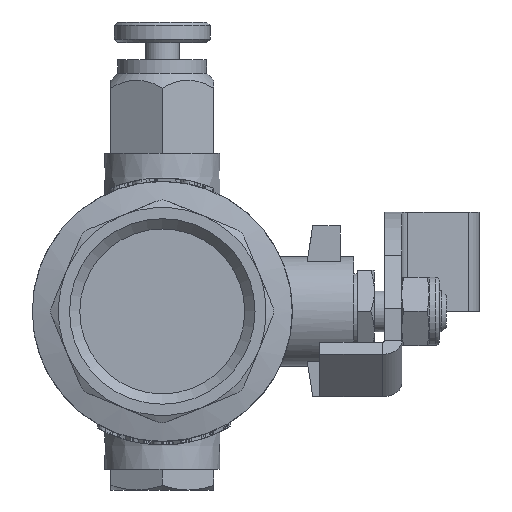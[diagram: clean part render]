
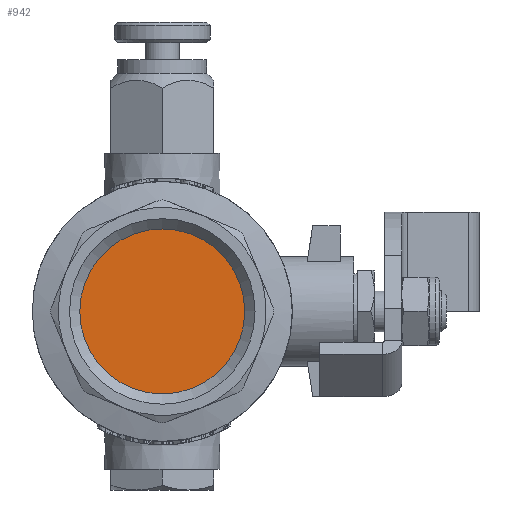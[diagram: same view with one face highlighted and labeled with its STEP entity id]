
A CAD part, front view. The second image highlights one B-rep face of the part: STEP entity #942.
In plain terms, the highlighted planar face has unit normal (0, -1, 0).
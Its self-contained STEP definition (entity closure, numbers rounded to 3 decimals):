
#942=ADVANCED_FACE('',(#6236),#6238,.F.);
#6236=FACE_BOUND('',#6237,.T.);
#6237=EDGE_LOOP('',(#11682));
#6238=PLANE('',#6239);
#6239=AXIS2_PLACEMENT_3D('',#6240,#6241,#6242);
#6240=CARTESIAN_POINT('',(0.,0.,0.));
#6241=DIRECTION('',(0.,1.,0.));
#6242=DIRECTION('',(1.,0.,0.));
#11682=ORIENTED_EDGE('',*,*,#13888,.T.);
#13888=EDGE_CURVE('',#17451,#17451,#17452,.T.);
#17451=VERTEX_POINT('',#38480);
#17452=CIRCLE('',#38481,12.059);
#38480=CARTESIAN_POINT('',(0.,0.,-12.059));
#38481=AXIS2_PLACEMENT_3D('',#38482,#38483,#38484);
#38482=CARTESIAN_POINT('',(0.,0.,0.));
#38483=DIRECTION('',(0.,-1.,0.));
#38484=DIRECTION('',(0.,0.,-1.));
